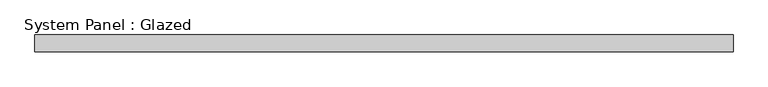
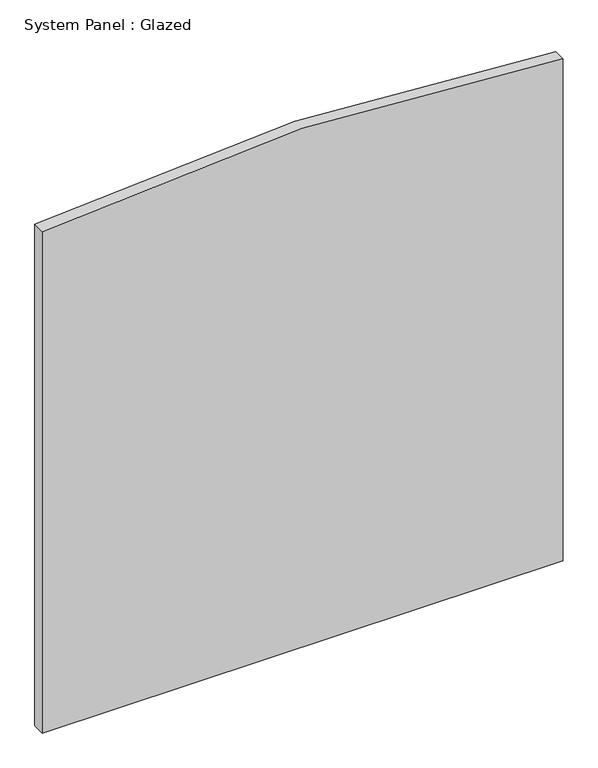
"""IFC4 building model written with IfcOpenShell, lengths in millimetres: plate geometry, System Panel : Glazed."""

from ifc_helpers import new_model, si_unit, point, frame, frame_2d, origin, place, context, project, spatial, polyline, circle_curve, trimmed, segment, composite_curve, outline, extrude, source, transform, mapped, element, save


def system_panel_glazed_49d2a459(model_context):
    return source(origin(), model_context, "Body", "SweptSolid", [
        extrude(outline(composite_curve([segment(polyline([(0.0, -534.3071428), (0.0, 534.3071428), (1087.1656232, 534.3071428)]), True, "CONTINUOUS"), segment(trimmed(circle_curve(frame_2d((-2774.95, 0.0)), 3898.9), [point((1087.1656232, 534.3071428))], [point((1087.1656232, -534.3071428))], False, "CARTESIAN"), True, "CONTINUOUS"), segment(polyline([(1087.1656232, -534.3071428), (0.0, -534.3071428)]), True, "CONTINUOUS")], self_intersect=False)), frame((0.0, 19.05, 0.0), z_axis=(0.0, 1.0, 0.0), x_axis=(0.0, 0.0, 1.0)), (0.0, 0.0, 1.0), 25.4),
    ])


if __name__ == "__main__":
    model = new_model("IFC4")
    model_context = context("Model", 3, world=origin())
    ifc_project = project(units=[si_unit("LENGTHUNIT", "METRE", prefix="MILLI")], contexts=[model_context])
    site = spatial("IfcSite", under=ifc_project)
    building = spatial("IfcBuilding", under=site)
    placement = place(None, origin())
    system_panel_glazed_shape = system_panel_glazed_49d2a459(model_context)
    element("IfcPlate", 1, ObjectType="System Panel : Glazed", at=placement, inside=building, context=model_context, shape_type="MappedRepresentation", body=[
        mapped(system_panel_glazed_shape, transform((0.0, 0.0, 0.0), x_axis=(1.0, 0.0, 0.0), y_axis=(0.0, 1.0, 0.0), z_axis=(0.0, 0.0, 1.0))),
    ])
    save(model, "model.ifc")
